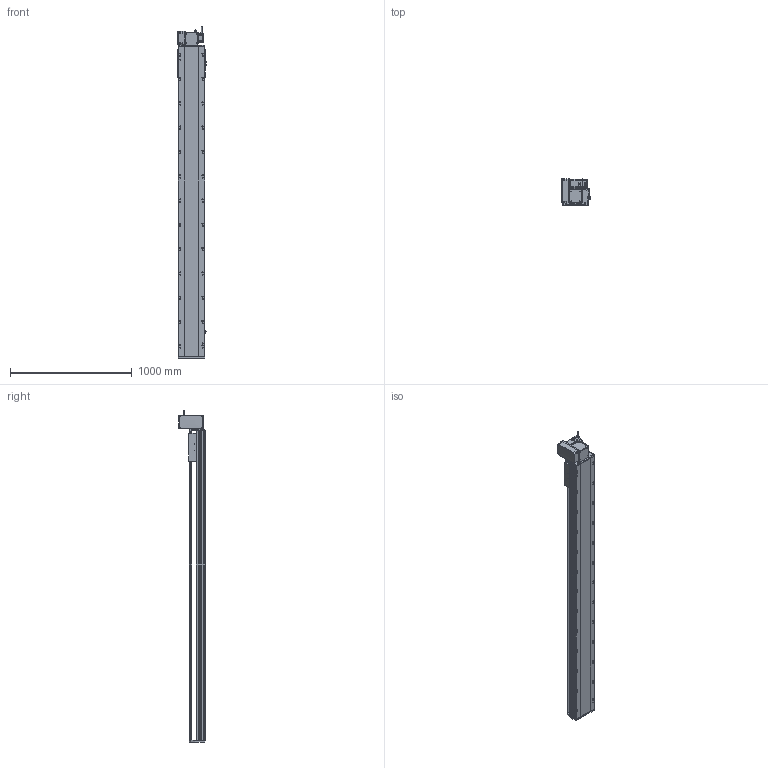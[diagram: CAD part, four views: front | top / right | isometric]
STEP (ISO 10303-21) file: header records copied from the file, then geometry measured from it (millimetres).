
FILE_DESCRIPTION (( 'STEP AP214' ), '1' );
FILE_NAME ('RTB22S-XX-2200-LW-M75-C4.STEP', '2025-12-12T06:02:05', ( '' ), ( '' ), 'SwSTEP 2.0', 'SolidWorks 2018', '' );
FILE_SCHEMA (( 'AUTOMOTIVE_DESIGN' ));
Length unit declared in the file: millimetre
Products named in the file (14): RTB22S-GY-017P^RTB22S-LW-々湍釱蚾饜_RTB22S-XX-XX-LW-M75-C4; RTB22S-GY-005P^RTB22S-LW-々湍釱蚾饜_RTB22S-XX-XX-LW-M75-C4; 750W萇儂^RTB22S-XX-XX-LW-M75-C4; RTB22S-GY-001耜裔^RTB22S-XX-XX-LW-M75-C4; RTB22S-XX-2200-LW-M75-C4; RTB22S-GY-008-M75--萇儂啣^RTB22S-LW-々湍釱蚾饜_RTB22S-XX-XX-LW-M75-C4; RTB22S-L-004賑釱^RTB22S-XX-XX-LW-M75-C4; RTB22S-GY-014--々湍釱^RTB22S-LW-々湍釱蚾饜_RTB22S-XX-XX-LW-M75-C4; RTB22S-L-011菁釱^RTB22S-XX-XX-LW-M75-C4; RTH22-GY-013外置感应片^RTB22S-XX-XX-LW-M75-C4; RTB22S-GY-007奻裔^RTB22S-XX-XX-LW-M75-C4; RTB22S-LW-々湍釱蚾饜^RTB22S-XX-XX-LW-M75-C4; OMRON EE-SX672 传感器^RTB22S-XX-XX-LW-M75-C4; RTB22S-GY-018P^RTB22S-LW-々湍釱蚾饜_RTB22S-XX-XX-LW-M75-C4
Assembly tree (16 placements, depth 3):
  RTB22S-XX-2200-LW-M75-C4
    RTB22S-L-011菁釱^RTB22S-XX-XX-LW-M75-C4
    RTB22S-GY-001耜裔^RTB22S-XX-XX-LW-M75-C4
    750W萇儂^RTB22S-XX-XX-LW-M75-C4
    RTB22S-GY-007奻裔^RTB22S-XX-XX-LW-M75-C4
    RTB22S-L-004賑釱^RTB22S-XX-XX-LW-M75-C4
    RTH22-GY-013外置感应片^RTB22S-XX-XX-LW-M75-C4
    OMRON EE-SX672 传感器^RTB22S-XX-XX-LW-M75-C4  x3
    RTB22S-LW-々湍釱蚾饜^RTB22S-XX-XX-LW-M75-C4
      RTB22S-GY-014--々湍釱^RTB22S-LW-々湍釱蚾饜_RTB22S-XX-XX-LW-M75-C4
      RTB22S-GY-017P^RTB22S-LW-々湍釱蚾饜_RTB22S-XX-XX-LW-M75-C4  x2
      RTB22S-GY-005P^RTB22S-LW-々湍釱蚾饜_RTB22S-XX-XX-LW-M75-C4
      RTB22S-GY-008-M75--萇儂啣^RTB22S-LW-々湍釱蚾饜_RTB22S-XX-XX-LW-M75-C4
      RTB22S-GY-018P^RTB22S-LW-々湍釱蚾饜_RTB22S-XX-XX-LW-M75-C4
Bounding box: 238.5 x 215.5 x 2732.2 mm (x, y, z)
Volume: 35272898.1 mm3; surface area: 3613170.8 mm2
Topology: 15 solids, 15 shells, 2073 faces, 5636 edges, 3602 vertices
Faces by surface type: plane 925, cylinder 682, bspline 296, cone 158, sphere 8, torus 4
Entity records: 56058 total; most frequent: CARTESIAN_POINT 15912, ORIENTED_EDGE 8020, DIRECTION 7804, EDGE_CURVE 4010, AXIS2_PLACEMENT_3D 2786, VERTEX_POINT 2606, LINE 2232, VECTOR 2232
